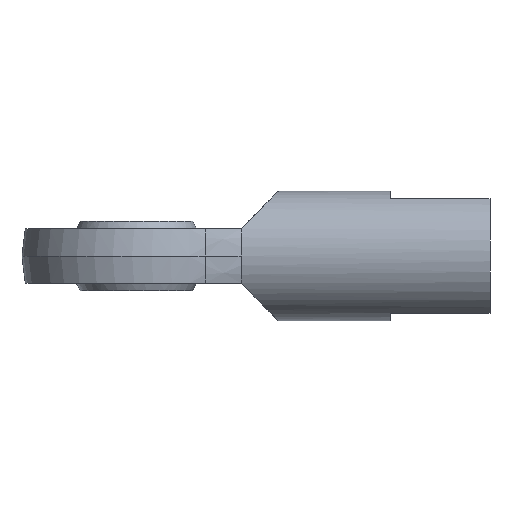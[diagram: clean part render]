
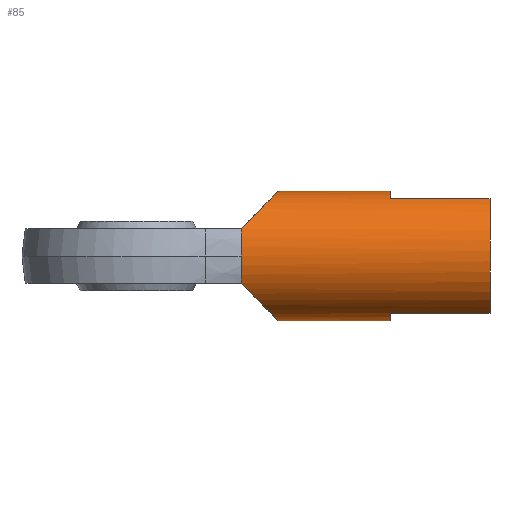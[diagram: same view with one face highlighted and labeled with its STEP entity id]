
A CAD part, front view. The second image highlights one B-rep face of the part: STEP entity #85.
In plain terms, the highlighted cylindrical face has radius 26 mm (diameter 52 mm), a partial arc.
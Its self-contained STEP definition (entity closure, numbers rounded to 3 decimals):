
#6 = VERTEX_POINT ( 'NONE', #113 ) ;
#8 = ORIENTED_EDGE ( 'NONE', *, *, #107, .T. ) ;
#32 = ORIENTED_EDGE ( 'NONE', *, *, #34, .T. ) ;
#34 = EDGE_CURVE ( 'NONE', #36, #99, #519, .T. ) ;
#36 = VERTEX_POINT ( 'NONE', #514 ) ;
#37 = ORIENTED_EDGE ( 'NONE', *, *, #38, .F. ) ;
#38 = EDGE_CURVE ( 'NONE', #36, #174, #558, .T. ) ;
#39 = VERTEX_POINT ( 'NONE', #559 ) ;
#56 = EDGE_CURVE ( 'NONE', #39, #6, #567, .T. ) ;
#62 = EDGE_LOOP ( 'NONE', ( #86, #37, #32, #8, #205, #207, #208, #211, #214, #217, #273 ) ) ;
#79 = EDGE_CURVE ( 'NONE', #174, #1630, #636, .T. ) ;
#85 = ADVANCED_FACE ( 'NONE', ( #617 ), #616, .T. ) ;
#86 = ORIENTED_EDGE ( 'NONE', *, *, #79, .F. ) ;
#99 = VERTEX_POINT ( 'NONE', #655 ) ;
#102 = VERTEX_POINT ( 'NONE', #652 ) ;
#107 = EDGE_CURVE ( 'NONE', #99, #102, #697, .T. ) ;
#113 = CARTESIAN_POINT ( 'NONE',  ( 102., 0., -26. ) ) ;
#174 = VERTEX_POINT ( 'NONE', #783 ) ;
#205 = ORIENTED_EDGE ( 'NONE', *, *, #206, .F. ) ;
#206 = EDGE_CURVE ( 'NONE', #39, #102, #829, .T. ) ;
#207 = ORIENTED_EDGE ( 'NONE', *, *, #56, .T. ) ;
#208 = ORIENTED_EDGE ( 'NONE', *, *, #209, .F. ) ;
#209 = EDGE_CURVE ( 'NONE', #210, #6, #878, .T. ) ;
#210 = VERTEX_POINT ( 'NONE', #873 ) ;
#211 = ORIENTED_EDGE ( 'NONE', *, *, #212, .F. ) ;
#212 = EDGE_CURVE ( 'NONE', #213, #210, #872, .T. ) ;
#213 = VERTEX_POINT ( 'NONE', #868 ) ;
#214 = ORIENTED_EDGE ( 'NONE', *, *, #215, .F. ) ;
#215 = EDGE_CURVE ( 'NONE', #216, #213, #867, .T. ) ;
#216 = VERTEX_POINT ( 'NONE', #862 ) ;
#217 = ORIENTED_EDGE ( 'NONE', *, *, #218, .F. ) ;
#218 = EDGE_CURVE ( 'NONE', #219, #216, #861, .T. ) ;
#219 = VERTEX_POINT ( 'NONE', #857 ) ;
#273 = ORIENTED_EDGE ( 'NONE', *, *, #274, .F. ) ;
#274 = EDGE_CURVE ( 'NONE', #1630, #219, #971, .T. ) ;
#514 = CARTESIAN_POINT ( 'NONE',  ( 42., -23.558, 11. ) ) ;
#515 = DIRECTION ( 'NONE',  ( 0., 1., 0. ) ) ;
#516 = DIRECTION ( 'NONE',  ( 1., 0., 0. ) ) ;
#517 = CARTESIAN_POINT ( 'NONE',  ( 42., 0., 0. ) ) ;
#518 = AXIS2_PLACEMENT_3D ( 'NONE', #517, #516, #515 ) ;
#519 = CIRCLE ( 'NONE', #518, 26. ) ;
#554 = CARTESIAN_POINT ( 'NONE',  ( 57., 0., 26. ) ) ;
#555 = CARTESIAN_POINT ( 'NONE',  ( 57., -10.394, 26. ) ) ;
#556 = CARTESIAN_POINT ( 'NONE',  ( 51.418, -19.161, 20.418 ) ) ;
#557 = CARTESIAN_POINT ( 'NONE',  ( 42., -23.558, 11. ) ) ;
#558 =( BOUNDED_CURVE ( )  B_SPLINE_CURVE ( 3, ( #557, #556, #555, #554 ),
 .UNSPECIFIED., .F., .T. ) 
 B_SPLINE_CURVE_WITH_KNOTS ( ( 4, 4 ),
 ( 5.149, 6.283 ),
 .UNSPECIFIED. ) 
 CURVE ( )  GEOMETRIC_REPRESENTATION_ITEM ( )  RATIONAL_B_SPLINE_CURVE ( ( 1., 0.896, 0.896, 1. ) ) 
 REPRESENTATION_ITEM ( '' )  );
#559 = CARTESIAN_POINT ( 'NONE',  ( 57., 0., -26. ) ) ;
#564 = DIRECTION ( 'NONE',  ( 1., 0., 0. ) ) ;
#565 = VECTOR ( 'NONE', #564, 1000. ) ;
#566 = CARTESIAN_POINT ( 'NONE',  ( 42., 0., -26. ) ) ;
#567 = LINE ( 'NONE', #566, #565 ) ;
#615 = AXIS2_PLACEMENT_3D ( 'NONE', #679, #678, #677 ) ;
#616 = CYLINDRICAL_SURFACE ( 'NONE', #615, 26. ) ;
#617 = FACE_OUTER_BOUND ( 'NONE', #62, .T. ) ;
#633 = DIRECTION ( 'NONE',  ( 1., 0., 0. ) ) ;
#634 = VECTOR ( 'NONE', #633, 1000. ) ;
#635 = CARTESIAN_POINT ( 'NONE',  ( 42., 0., 26. ) ) ;
#636 = LINE ( 'NONE', #635, #634 ) ;
#652 = CARTESIAN_POINT ( 'NONE',  ( 42., -23.558, -11. ) ) ;
#655 = CARTESIAN_POINT ( 'NONE',  ( 42., -26., 0. ) ) ;
#677 = DIRECTION ( 'NONE',  ( 0., 0., -1. ) ) ;
#678 = DIRECTION ( 'NONE',  ( 1., 0., 0. ) ) ;
#679 = CARTESIAN_POINT ( 'NONE',  ( 42., 0., 0. ) ) ;
#693 = DIRECTION ( 'NONE',  ( 0., 1., 0. ) ) ;
#694 = DIRECTION ( 'NONE',  ( 1., 0., 0. ) ) ;
#695 = CARTESIAN_POINT ( 'NONE',  ( 42., 0., 0. ) ) ;
#696 = AXIS2_PLACEMENT_3D ( 'NONE', #695, #694, #693 ) ;
#697 = CIRCLE ( 'NONE', #696, 26. ) ;
#783 = CARTESIAN_POINT ( 'NONE',  ( 57., 0., 26. ) ) ;
#825 = CARTESIAN_POINT ( 'NONE',  ( 42., -23.558, -11. ) ) ;
#826 = CARTESIAN_POINT ( 'NONE',  ( 51.418, -19.161, -20.418 ) ) ;
#827 = CARTESIAN_POINT ( 'NONE',  ( 57., -10.394, -26. ) ) ;
#828 = CARTESIAN_POINT ( 'NONE',  ( 57., 0., -26. ) ) ;
#829 =( BOUNDED_CURVE ( )  B_SPLINE_CURVE ( 3, ( #828, #827, #826, #825 ),
 .UNSPECIFIED., .F., .F. ) 
 B_SPLINE_CURVE_WITH_KNOTS ( ( 4, 4 ),
 ( 0., 1.134 ),
 .UNSPECIFIED. ) 
 CURVE ( )  GEOMETRIC_REPRESENTATION_ITEM ( )  RATIONAL_B_SPLINE_CURVE ( ( 1., 0.896, 0.896, 1. ) ) 
 REPRESENTATION_ITEM ( '' )  );
#857 = CARTESIAN_POINT ( 'NONE',  ( 102., -12.124, 23. ) ) ;
#858 = DIRECTION ( 'NONE',  ( 1., 0., 0. ) ) ;
#859 = VECTOR ( 'NONE', #858, 1000. ) ;
#860 = CARTESIAN_POINT ( 'NONE',  ( 42., -12.124, 23. ) ) ;
#861 = LINE ( 'NONE', #860, #859 ) ;
#862 = CARTESIAN_POINT ( 'NONE',  ( 142., -12.124, 23. ) ) ;
#863 = DIRECTION ( 'NONE',  ( 0., 0., -1. ) ) ;
#864 = DIRECTION ( 'NONE',  ( 1., 0., 0. ) ) ;
#865 = CARTESIAN_POINT ( 'NONE',  ( 142., 0., 0. ) ) ;
#866 = AXIS2_PLACEMENT_3D ( 'NONE', #865, #864, #863 ) ;
#867 = CIRCLE ( 'NONE', #866, 26. ) ;
#868 = CARTESIAN_POINT ( 'NONE',  ( 142., -12.124, -23. ) ) ;
#869 = DIRECTION ( 'NONE',  ( -1., 0., 0. ) ) ;
#870 = VECTOR ( 'NONE', #869, 1000. ) ;
#871 = CARTESIAN_POINT ( 'NONE',  ( 42., -12.124, -23. ) ) ;
#872 = LINE ( 'NONE', #871, #870 ) ;
#873 = CARTESIAN_POINT ( 'NONE',  ( 102., -12.124, -23. ) ) ;
#874 = DIRECTION ( 'NONE',  ( 0., 0., 1. ) ) ;
#875 = DIRECTION ( 'NONE',  ( 1., 0., 0. ) ) ;
#876 = CARTESIAN_POINT ( 'NONE',  ( 102., 0., 0. ) ) ;
#877 = AXIS2_PLACEMENT_3D ( 'NONE', #876, #875, #874 ) ;
#878 = CIRCLE ( 'NONE', #877, 26. ) ;
#964 = DIRECTION ( 'NONE',  ( 0., 0., 1. ) ) ;
#965 = DIRECTION ( 'NONE',  ( 1., 0., 0. ) ) ;
#966 = CARTESIAN_POINT ( 'NONE',  ( 102., 0., 0. ) ) ;
#967 = AXIS2_PLACEMENT_3D ( 'NONE', #966, #965, #964 ) ;
#971 = CIRCLE ( 'NONE', #967, 26. ) ;
#1294 = CARTESIAN_POINT ( 'NONE',  ( 102., 0., 26. ) ) ;
#1630 = VERTEX_POINT ( 'NONE', #1294 ) ;
